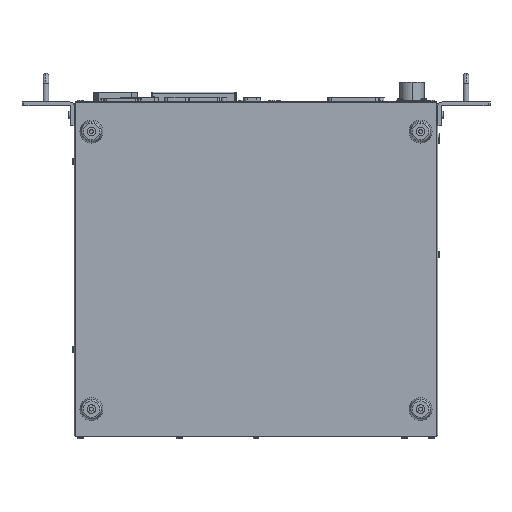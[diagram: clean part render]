
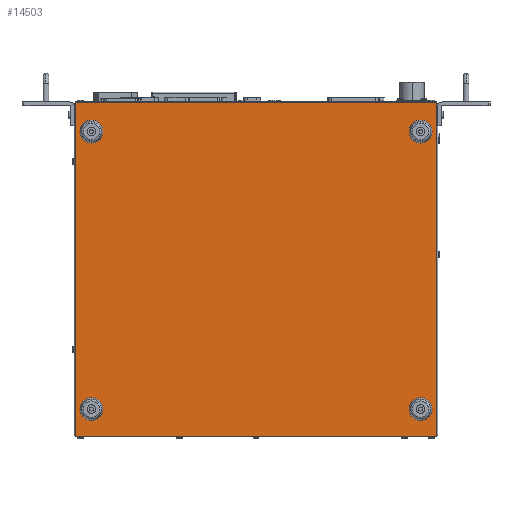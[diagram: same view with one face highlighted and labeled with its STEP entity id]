
A CAD part, front view. The second image highlights one B-rep face of the part: STEP entity #14503.
In plain terms, the highlighted planar face has unit normal (0, -1, 0).
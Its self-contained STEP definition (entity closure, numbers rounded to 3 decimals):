
#7079 = VERTEX_POINT( '', #20099 );
#7299 = EDGE_CURVE( '', #9397, #13769, #20340, .T. );
#7469 = VERTEX_POINT( '', #20522 );
#9003 = EDGE_CURVE( '', #12773, #7079, #22222, .T. );
#9159 = VERTEX_POINT( '', #22387 );
#9397 = VERTEX_POINT( '', #22657 );
#10019 = EDGE_CURVE( '', #7469, #17767, #23339, .T. );
#10643 = EDGE_CURVE( '', #12365, #9397, #24046, .T. );
#12365 = VERTEX_POINT( '', #26029 );
#12773 = VERTEX_POINT( '', #26482 );
#12949 = EDGE_CURVE( '', #7079, #12773, #26697, .T. );
#13077 = EDGE_CURVE( '', #17777, #13769, #26842, .T. );
#13769 = VERTEX_POINT( '', #27614 );
#13943 = EDGE_CURVE( '', #18579, #16321, #27808, .T. );
#14503 = ADVANCED_FACE( '', ( #28421, #28422, #28423, #28424, #28425 ), #28426, .T. );
#15175 = EDGE_CURVE( '', #16321, #18579, #29149, .T. );
#16321 = VERTEX_POINT( '', #30435 );
#16589 = EDGE_CURVE( '', #17777, #12365, #30734, .T. );
#17557 = EDGE_CURVE( '', #9159, #19033, #31801, .T. );
#17767 = VERTEX_POINT( '', #32023 );
#17777 = VERTEX_POINT( '', #32034 );
#18579 = VERTEX_POINT( '', #32895 );
#18989 = EDGE_CURVE( '', #19033, #9159, #33342, .T. );
#18991 = EDGE_CURVE( '', #17767, #7469, #33344, .T. );
#19033 = VERTEX_POINT( '', #33390 );
#20099 = CARTESIAN_POINT( '', ( 362., 0., -19. ) );
#20340 = LINE( '', #35061, #35062 );
#20522 = CARTESIAN_POINT( '', ( 18., 0., -309. ) );
#22222 = CIRCLE( '', #37607, 12. );
#22387 = CARTESIAN_POINT( '', ( 18., 0., -19. ) );
#22657 = CARTESIAN_POINT( '', ( 379., 0., -350. ) );
#23339 = CIRCLE( '', #39151, 12. );
#24046 = LINE( '', #40084, #40085 );
#26029 = CARTESIAN_POINT( '', ( 1., 0., -350. ) );
#26482 = CARTESIAN_POINT( '', ( 362., 0., -43. ) );
#26697 = CIRCLE( '', #43616, 12. );
#26842 = LINE( '', #43809, #43810 );
#27614 = CARTESIAN_POINT( '', ( 379., 0., -1. ) );
#27808 = CIRCLE( '', #45090, 12. );
#28421 = FACE_BOUND( '', #45941, .T. );
#28422 = FACE_BOUND( '', #45942, .T. );
#28423 = FACE_BOUND( '', #45943, .T. );
#28424 = FACE_BOUND( '', #45944, .T. );
#28425 = FACE_OUTER_BOUND( '', #45945, .T. );
#28426 = PLANE( '', #45946 );
#29149 = CIRCLE( '', #46935, 12. );
#30435 = CARTESIAN_POINT( '', ( 362., 0., -333. ) );
#30734 = LINE( '', #49084, #49085 );
#31801 = CIRCLE( '', #50513, 12. );
#32023 = CARTESIAN_POINT( '', ( 18., 0., -333. ) );
#32034 = CARTESIAN_POINT( '', ( 1., 0., -1. ) );
#32895 = CARTESIAN_POINT( '', ( 362., 0., -309. ) );
#33342 = CIRCLE( '', #52646, 12. );
#33344 = CIRCLE( '', #52649, 12. );
#33390 = CARTESIAN_POINT( '', ( 18., 0., -43. ) );
#35061 = CARTESIAN_POINT( '', ( 379., 0., -1. ) );
#35062 = VECTOR( '', #54307, 1. );
#37607 = AXIS2_PLACEMENT_3D( '', #56539, #56540, #56541 );
#39151 = AXIS2_PLACEMENT_3D( '', #57857, #57858, #57859 );
#40084 = CARTESIAN_POINT( '', ( 1., 0., -350. ) );
#40085 = VECTOR( '', #58748, 1. );
#43616 = AXIS2_PLACEMENT_3D( '', #62102, #62103, #62104 );
#43809 = CARTESIAN_POINT( '', ( 1., 0., -1. ) );
#43810 = VECTOR( '', #62288, 1. );
#45090 = AXIS2_PLACEMENT_3D( '', #63456, #63457, #63458 );
#45941 = EDGE_LOOP( '', ( #64124, #64125 ) );
#45942 = EDGE_LOOP( '', ( #64126, #64127 ) );
#45943 = EDGE_LOOP( '', ( #64128, #64129 ) );
#45944 = EDGE_LOOP( '', ( #64130, #64131 ) );
#45945 = EDGE_LOOP( '', ( #64132, #64133, #64134, #64135 ) );
#45946 = AXIS2_PLACEMENT_3D( '', #64136, #64137, #64138 );
#46935 = AXIS2_PLACEMENT_3D( '', #64853, #64854, #64855 );
#49084 = CARTESIAN_POINT( '', ( 1., 0., -1. ) );
#49085 = VECTOR( '', #66782, 1. );
#50513 = AXIS2_PLACEMENT_3D( '', #67960, #67961, #67962 );
#52646 = AXIS2_PLACEMENT_3D( '', #69555, #69556, #69557 );
#52649 = AXIS2_PLACEMENT_3D( '', #69558, #69559, #69560 );
#54307 = DIRECTION( '', ( 0., 0., 1. ) );
#56539 = CARTESIAN_POINT( '', ( 362., 0., -31. ) );
#56540 = DIRECTION( '', ( 0., 1., 0. ) );
#56541 = DIRECTION( '', ( 0., 0., 1. ) );
#57857 = CARTESIAN_POINT( '', ( 18., 0., -321. ) );
#57858 = DIRECTION( '', ( 0., 1., 0. ) );
#57859 = DIRECTION( '', ( 0., 0., 1. ) );
#58748 = DIRECTION( '', ( 1., 0., 0. ) );
#62102 = CARTESIAN_POINT( '', ( 362., 0., -31. ) );
#62103 = DIRECTION( '', ( 0., 1., 0. ) );
#62104 = DIRECTION( '', ( 0., 0., 1. ) );
#62288 = DIRECTION( '', ( 1., 0., 0. ) );
#63456 = CARTESIAN_POINT( '', ( 362., 0., -321. ) );
#63457 = DIRECTION( '', ( 0., 1., 0. ) );
#63458 = DIRECTION( '', ( 0., 0., 1. ) );
#64124 = ORIENTED_EDGE( '', *, *, #12949, .T. );
#64125 = ORIENTED_EDGE( '', *, *, #9003, .T. );
#64126 = ORIENTED_EDGE( '', *, *, #10019, .T. );
#64127 = ORIENTED_EDGE( '', *, *, #18991, .T. );
#64128 = ORIENTED_EDGE( '', *, *, #13943, .T. );
#64129 = ORIENTED_EDGE( '', *, *, #15175, .T. );
#64130 = ORIENTED_EDGE( '', *, *, #17557, .T. );
#64131 = ORIENTED_EDGE( '', *, *, #18989, .T. );
#64132 = ORIENTED_EDGE( '', *, *, #7299, .T. );
#64133 = ORIENTED_EDGE( '', *, *, #13077, .F. );
#64134 = ORIENTED_EDGE( '', *, *, #16589, .T. );
#64135 = ORIENTED_EDGE( '', *, *, #10643, .T. );
#64136 = CARTESIAN_POINT( '', ( 1., 0., -350. ) );
#64137 = DIRECTION( '', ( 0., -1., 0. ) );
#64138 = DIRECTION( '', ( 0., 0., -1. ) );
#64853 = CARTESIAN_POINT( '', ( 362., 0., -321. ) );
#64854 = DIRECTION( '', ( 0., 1., 0. ) );
#64855 = DIRECTION( '', ( 0., 0., 1. ) );
#66782 = DIRECTION( '', ( 0., 0., -1. ) );
#67960 = CARTESIAN_POINT( '', ( 18., 0., -31. ) );
#67961 = DIRECTION( '', ( 0., 1., 0. ) );
#67962 = DIRECTION( '', ( 0., 0., 1. ) );
#69555 = CARTESIAN_POINT( '', ( 18., 0., -31. ) );
#69556 = DIRECTION( '', ( 0., 1., 0. ) );
#69557 = DIRECTION( '', ( 0., 0., 1. ) );
#69558 = CARTESIAN_POINT( '', ( 18., 0., -321. ) );
#69559 = DIRECTION( '', ( 0., 1., 0. ) );
#69560 = DIRECTION( '', ( 0., 0., 1. ) );
